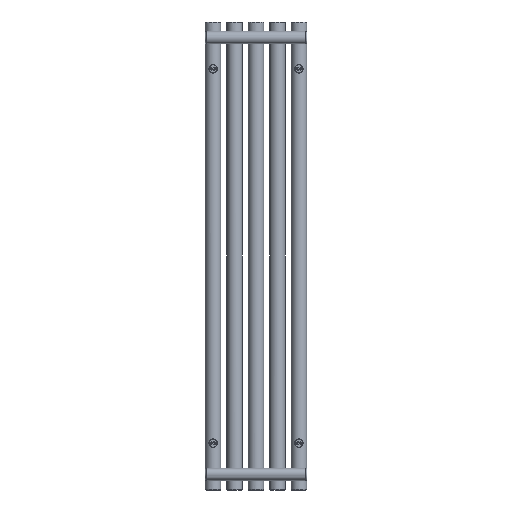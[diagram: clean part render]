
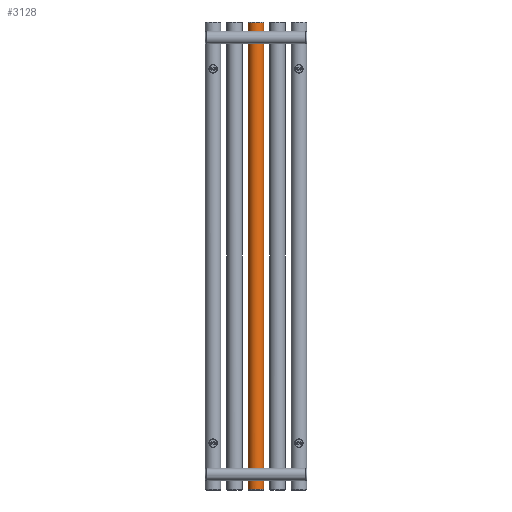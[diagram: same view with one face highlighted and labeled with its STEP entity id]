
A CAD part, front view. The second image highlights one B-rep face of the part: STEP entity #3128.
In plain terms, the highlighted cylindrical face has radius 20 mm (diameter 40 mm), a full revolution.
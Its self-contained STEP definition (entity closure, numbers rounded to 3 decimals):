
#212=FACE_BOUND('',#706,.T.);
#213=FACE_BOUND('',#707,.T.);
#214=FACE_BOUND('',#708,.T.);
#256=LINE('',#5726,#351);
#351=VECTOR('',#3895,20.);
#446=CYLINDRICAL_SURFACE('',#3380,20.);
#496=FACE_OUTER_BOUND('',#705,.T.);
#705=EDGE_LOOP('',(#2170,#2171,#2172,#2173,#2174));
#706=EDGE_LOOP('',(#2175));
#707=EDGE_LOOP('',(#2176));
#708=EDGE_LOOP('',(#2177));
#949=B_SPLINE_CURVE_WITH_KNOTS('',3,(#5701,#5702,#5703,#5704,#5705,#5706,
#5707,#5708,#5709,#5710,#5711,#5712,#5713,#5714,#5715,#5716,#5717,#5718,
#5719,#5720),.UNSPECIFIED.,.T.,.F.,(4,1,1,1,1,1,1,1,1,1,1,1,1,1,1,1,1,4),
(-5.132,-4.765,-4.399,-3.91,
-3.666,-3.421,-3.177,-2.933,
-2.444,-2.322,-2.199,-1.955,
-1.711,-1.466,-1.1,-0.733,
-0.367,0.),.UNSPECIFIED.);
#950=B_SPLINE_CURVE_WITH_KNOTS('',3,(#5730,#5731,#5732,#5733,#5734,#5735,
#5736,#5737,#5738,#5739,#5740,#5741,#5742,#5743,#5744,#5745,#5746,#5747,
#5748),.UNSPECIFIED.,.T.,.F.,(4,1,1,1,1,1,1,1,1,1,1,1,1,1,1,1,4),(-5.132,
-4.765,-4.399,-3.91,-3.666,
-3.421,-3.177,-2.933,-2.444,
-2.199,-1.955,-1.711,-1.466,-1.1,
-0.733,-0.367,0.),.UNSPECIFIED.);
#951=B_SPLINE_CURVE_WITH_KNOTS('',3,(#5750,#5751,#5752,#5753,#5754,#5755,
#5756,#5757,#5758,#5759,#5760,#5761,#5762,#5763,#5764,#5765,#5766,#5767,
#5768,#5769),.UNSPECIFIED.,.T.,.F.,(4,1,1,1,1,1,1,1,1,1,1,1,1,1,1,1,1,4),
(-6.15,-5.711,-5.272,-4.686,
-4.393,-4.247,-4.1,-3.807,
-3.514,-3.222,-2.929,-2.636,
-2.05,-1.757,-1.318,-0.879,
-0.439,0.),.UNSPECIFIED.);
#1019=CIRCLE('',#3381,20.);
#1020=CIRCLE('',#3382,20.);
#1021=CIRCLE('',#3383,20.);
#1324=VERTEX_POINT('',#5699);
#1325=VERTEX_POINT('',#5722);
#1326=VERTEX_POINT('',#5723);
#1327=VERTEX_POINT('',#5725);
#1328=VERTEX_POINT('',#5729);
#1329=VERTEX_POINT('',#5749);
#1670=EDGE_CURVE('',#1324,#1324,#949,.T.);
#1671=EDGE_CURVE('',#1325,#1326,#1019,.T.);
#1672=EDGE_CURVE('',#1325,#1327,#256,.T.);
#1673=EDGE_CURVE('',#1327,#1327,#1020,.T.);
#1674=EDGE_CURVE('',#1326,#1325,#1021,.T.);
#1675=EDGE_CURVE('',#1328,#1328,#950,.T.);
#1676=EDGE_CURVE('',#1329,#1329,#951,.T.);
#2170=ORIENTED_EDGE('',*,*,#1671,.F.);
#2171=ORIENTED_EDGE('',*,*,#1672,.T.);
#2172=ORIENTED_EDGE('',*,*,#1673,.F.);
#2173=ORIENTED_EDGE('',*,*,#1672,.F.);
#2174=ORIENTED_EDGE('',*,*,#1674,.F.);
#2175=ORIENTED_EDGE('',*,*,#1675,.F.);
#2176=ORIENTED_EDGE('',*,*,#1676,.F.);
#2177=ORIENTED_EDGE('',*,*,#1670,.F.);
#3128=ADVANCED_FACE('',(#496,#212,#213,#214),#446,.T.);
#3380=AXIS2_PLACEMENT_3D('',#5721,#3891,#3892);
#3381=AXIS2_PLACEMENT_3D('',#5724,#3893,#3894);
#3382=AXIS2_PLACEMENT_3D('',#5727,#3896,#3897);
#3383=AXIS2_PLACEMENT_3D('',#5728,#3898,#3899);
#3891=DIRECTION('center_axis',(0.,0.,1.));
#3892=DIRECTION('ref_axis',(-1.,0.,0.));
#3893=DIRECTION('center_axis',(0.,0.,1.));
#3894=DIRECTION('ref_axis',(-1.,0.,0.));
#3895=DIRECTION('',(0.,0.,-1.));
#3896=DIRECTION('center_axis',(0.,0.,-1.));
#3897=DIRECTION('ref_axis',(-1.,0.,0.));
#3898=DIRECTION('center_axis',(0.,0.,1.));
#3899=DIRECTION('ref_axis',(-1.,0.,0.));
#5699=CARTESIAN_POINT('',(-110.,-20.,50.1));
#5701=CARTESIAN_POINT('Ctrl Pts',(-110.,-20.,50.1));
#5702=CARTESIAN_POINT('Ctrl Pts',(-111.611,-20.,50.1));
#5703=CARTESIAN_POINT('Ctrl Pts',(-114.83,-19.61,49.58));
#5704=CARTESIAN_POINT('Ctrl Pts',(-119.319,-17.858,46.75));
#5705=CARTESIAN_POINT('Ctrl Pts',(-121.21,-16.549,41.99));
#5706=CARTESIAN_POINT('Ctrl Pts',(-120.866,-16.799,37.471));
#5707=CARTESIAN_POINT('Ctrl Pts',(-119.65,-17.551,34.432));
#5708=CARTESIAN_POINT('Ctrl Pts',(-117.534,-18.591,32.08));
#5709=CARTESIAN_POINT('Ctrl Pts',(-113.837,-19.818,30.087));
#5710=CARTESIAN_POINT('Ctrl Pts',(-109.97,-20.157,29.697));
#5711=CARTESIAN_POINT('Ctrl Pts',(-106.807,-19.763,30.226));
#5712=CARTESIAN_POINT('Ctrl Pts',(-104.776,-19.355,30.833));
#5713=CARTESIAN_POINT('Ctrl Pts',(-102.467,-18.591,32.083));
#5714=CARTESIAN_POINT('Ctrl Pts',(-100.35,-17.555,34.429));
#5715=CARTESIAN_POINT('Ctrl Pts',(-98.928,-16.663,37.98));
#5716=CARTESIAN_POINT('Ctrl Pts',(-98.922,-16.658,42.598));
#5717=CARTESIAN_POINT('Ctrl Pts',(-101.135,-18.048,47.029));
#5718=CARTESIAN_POINT('Ctrl Pts',(-105.165,-19.6,49.585));
#5719=CARTESIAN_POINT('Ctrl Pts',(-108.389,-20.,50.1));
#5720=CARTESIAN_POINT('Ctrl Pts',(-110.,-20.,50.1));
#5721=CARTESIAN_POINT('Origin',(-110.,0.,0.));
#5722=CARTESIAN_POINT('',(-90.,0.,1198.));
#5723=CARTESIAN_POINT('',(-130.,0.,1198.));
#5724=CARTESIAN_POINT('Origin',(-110.,0.,1198.));
#5725=CARTESIAN_POINT('',(-90.,0.,2.));
#5726=CARTESIAN_POINT('',(-90.,0.,0.));
#5727=CARTESIAN_POINT('Origin',(-110.,0.,2.));
#5728=CARTESIAN_POINT('Origin',(-110.,0.,1198.));
#5729=CARTESIAN_POINT('',(-110.,-20.,1170.1));
#5730=CARTESIAN_POINT('Ctrl Pts',(-110.,-20.,1170.1));
#5731=CARTESIAN_POINT('Ctrl Pts',(-111.611,-20.,1170.1));
#5732=CARTESIAN_POINT('Ctrl Pts',(-114.83,-19.611,1169.58));
#5733=CARTESIAN_POINT('Ctrl Pts',(-119.319,-17.859,1166.751));
#5734=CARTESIAN_POINT('Ctrl Pts',(-121.21,-16.549,1161.99));
#5735=CARTESIAN_POINT('Ctrl Pts',(-120.867,-16.8,1157.472));
#5736=CARTESIAN_POINT('Ctrl Pts',(-119.651,-17.553,1154.432));
#5737=CARTESIAN_POINT('Ctrl Pts',(-117.534,-18.59,1152.082));
#5738=CARTESIAN_POINT('Ctrl Pts',(-113.837,-19.819,1150.088));
#5739=CARTESIAN_POINT('Ctrl Pts',(-109.419,-20.203,1149.641));
#5740=CARTESIAN_POINT('Ctrl Pts',(-105.24,-19.503,1150.58));
#5741=CARTESIAN_POINT('Ctrl Pts',(-102.467,-18.593,1152.084));
#5742=CARTESIAN_POINT('Ctrl Pts',(-100.351,-17.554,1154.428));
#5743=CARTESIAN_POINT('Ctrl Pts',(-98.928,-16.664,1157.98));
#5744=CARTESIAN_POINT('Ctrl Pts',(-98.923,-16.658,1162.598));
#5745=CARTESIAN_POINT('Ctrl Pts',(-101.135,-18.048,1167.029));
#5746=CARTESIAN_POINT('Ctrl Pts',(-105.165,-19.6,1169.585));
#5747=CARTESIAN_POINT('Ctrl Pts',(-108.389,-20.,1170.1));
#5748=CARTESIAN_POINT('Ctrl Pts',(-110.,-20.,1170.1));
#5749=CARTESIAN_POINT('',(-120.476,17.037,1000.));
#5750=CARTESIAN_POINT('Ctrl Pts',(-120.476,17.037,1000.));
#5751=CARTESIAN_POINT('Ctrl Pts',(-120.476,17.037,1001.678));
#5752=CARTESIAN_POINT('Ctrl Pts',(-119.71,17.527,1005.001));
#5753=CARTESIAN_POINT('Ctrl Pts',(-116.469,19.119,1009.277));
#5754=CARTESIAN_POINT('Ctrl Pts',(-111.909,20.126,1011.233));
#5755=CARTESIAN_POINT('Ctrl Pts',(-108.118,19.959,1010.921));
#5756=CARTESIAN_POINT('Ctrl Pts',(-106.106,19.637,1010.256));
#5757=CARTESIAN_POINT('Ctrl Pts',(-104.226,19.19,1009.292));
#5758=CARTESIAN_POINT('Ctrl Pts',(-102.208,18.469,1007.586));
#5759=CARTESIAN_POINT('Ctrl Pts',(-100.447,17.595,1004.897));
#5760=CARTESIAN_POINT('Ctrl Pts',(-99.484,17.016,1001.705));
#5761=CARTESIAN_POINT('Ctrl Pts',(-99.483,17.013,998.292));
#5762=CARTESIAN_POINT('Ctrl Pts',(-100.768,17.795,994.038));
#5763=CARTESIAN_POINT('Ctrl Pts',(-103.647,19.134,990.784));
#5764=CARTESIAN_POINT('Ctrl Pts',(-108.072,20.044,988.907));
#5765=CARTESIAN_POINT('Ctrl Pts',(-112.481,20.04,988.913));
#5766=CARTESIAN_POINT('Ctrl Pts',(-116.783,18.95,991.159));
#5767=CARTESIAN_POINT('Ctrl Pts',(-119.716,17.532,994.996));
#5768=CARTESIAN_POINT('Ctrl Pts',(-120.476,17.037,998.322));
#5769=CARTESIAN_POINT('Ctrl Pts',(-120.476,17.037,1000.));
